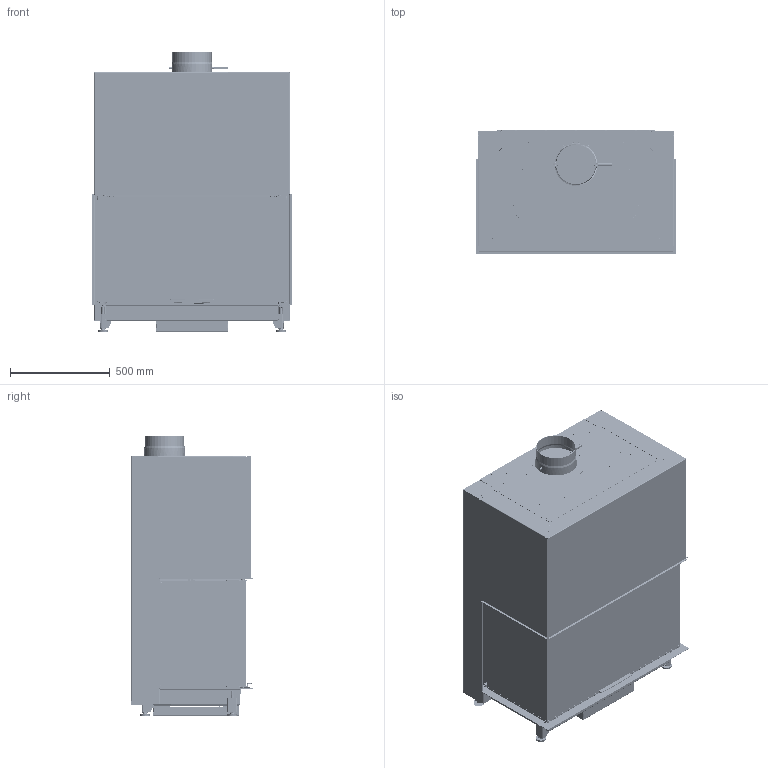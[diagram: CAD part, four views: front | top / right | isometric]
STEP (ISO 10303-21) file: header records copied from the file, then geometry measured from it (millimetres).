
FILE_DESCRIPTION(/* description */ (''),/* implementation_level */ '2;1');
FILE_NAME(/* name */ 'C:\ADSK_DM_WS\CAD_3D\03 Geraete\RIII 55x100x46\Zeichnungen\RIII 55x100x46 Gen.2 mit Mantel Abgang oben CAD Planung defriten 2021-03213 211124.stp',/* time_stamp */ '2021-11-24T13:08:55+01:00',/* author */ ('CPI'),/* organization */ (''),/* preprocessor_version */ 'ST-DEVELOPER v18.1',/* originating_system */ 'Autodesk Inventor 2022',/* authorisation */ '');
FILE_SCHEMA (('AUTOMOTIVE_DESIGN { 1 0 10303 214 3 1 1 }'));
Products named in the file (9): 2021-03213; 2021-03199; 2021-03207; 2021-03205; 2021-03203; 2021-03069; 2021-03071; 2018-00985; 2021-03211
Assembly tree (8 placements, depth 2):
  2021-03213
    2021-03199
    2021-03207
    2021-03205
    2021-03203
    2021-03069
    2021-03071
    2018-00985
    2021-03211
Bounding box: 1000 x 613.5 x 1399 mm (x, y, z)
Volume: 41209888.3 mm3; surface area: 22673674.6 mm2
Topology: 15 solids, 30 shells, 9637 faces, 26899 edges, 17055 vertices
Faces by surface type: plane 5522, cylinder 3662, bspline 298, cone 97, torus 57, sphere 1
Full cylindrical faces by diameter (mm): 3.242 x6, 4.8 x1, 6 x3, 7 x11, 7.9 x2, 8 x8, 10 x10, 10.21 x4, 12 x4, 16 x10, 20 x4, 30 x4, 163 x1, 194 x1, 198 x1, 200 x1, 204 x1, 333 x1, 339 x1
Entity records: 328626 total; most frequent: CARTESIAN_POINT 71218, ORIENTED_EDGE 53732, DIRECTION 52728, EDGE_CURVE 26923, AXIS2_PLACEMENT_3D 17579, LINE 17570, VECTOR 17570, VERTEX_POINT 17051
